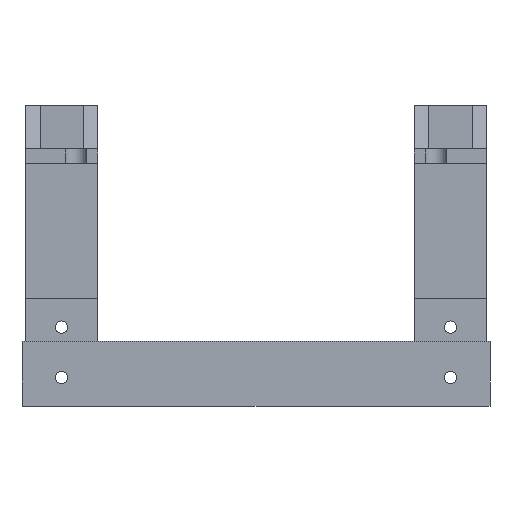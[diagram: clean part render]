
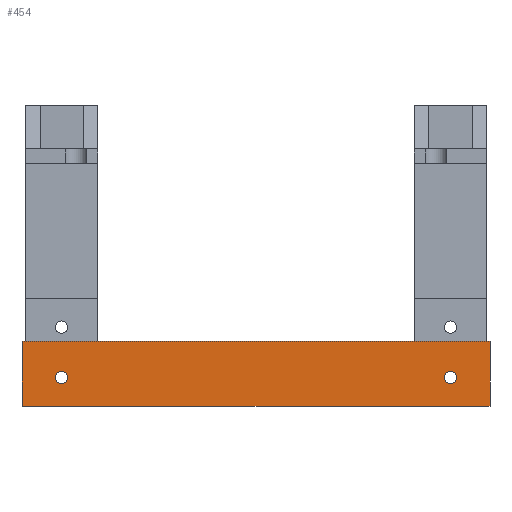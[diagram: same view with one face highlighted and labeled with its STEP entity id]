
A CAD part, front view. The second image highlights one B-rep face of the part: STEP entity #454.
In plain terms, the highlighted planar face has unit normal (0, -1, 0).
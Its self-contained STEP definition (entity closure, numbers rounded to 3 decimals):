
#418 = EDGE_CURVE('',#419,#421,#423,.T.);
#419 = VERTEX_POINT('',#420);
#420 = CARTESIAN_POINT('',(-65.,98.,2.));
#421 = VERTEX_POINT('',#422);
#422 = CARTESIAN_POINT('',(-65.,98.,20.));
#423 = LINE('',#424,#425);
#424 = CARTESIAN_POINT('',(-65.,98.,2.));
#425 = VECTOR('',#426,1.);
#426 = DIRECTION('',(0.,0.,1.));
#454 = ADVANCED_FACE('',(#455,#480,#491),#502,.F.);
#455 = FACE_BOUND('',#456,.F.);
#456 = EDGE_LOOP('',(#457,#465,#466,#474));
#457 = ORIENTED_EDGE('',*,*,#458,.F.);
#458 = EDGE_CURVE('',#419,#459,#461,.T.);
#459 = VERTEX_POINT('',#460);
#460 = CARTESIAN_POINT('',(65.,98.,2.));
#461 = LINE('',#462,#463);
#462 = CARTESIAN_POINT('',(-65.,98.,2.));
#463 = VECTOR('',#464,1.);
#464 = DIRECTION('',(1.,0.,-0.));
#465 = ORIENTED_EDGE('',*,*,#418,.T.);
#466 = ORIENTED_EDGE('',*,*,#467,.T.);
#467 = EDGE_CURVE('',#421,#468,#470,.T.);
#468 = VERTEX_POINT('',#469);
#469 = CARTESIAN_POINT('',(65.,98.,20.));
#470 = LINE('',#471,#472);
#471 = CARTESIAN_POINT('',(-65.,98.,20.));
#472 = VECTOR('',#473,1.);
#473 = DIRECTION('',(1.,0.,-0.));
#474 = ORIENTED_EDGE('',*,*,#475,.F.);
#475 = EDGE_CURVE('',#459,#468,#476,.T.);
#476 = LINE('',#477,#478);
#477 = CARTESIAN_POINT('',(65.,98.,2.));
#478 = VECTOR('',#479,1.);
#479 = DIRECTION('',(0.,0.,1.));
#480 = FACE_BOUND('',#481,.F.);
#481 = EDGE_LOOP('',(#482));
#482 = ORIENTED_EDGE('',*,*,#483,.F.);
#483 = EDGE_CURVE('',#484,#484,#486,.T.);
#484 = VERTEX_POINT('',#485);
#485 = CARTESIAN_POINT('',(-54.,98.,11.7));
#486 = CIRCLE('',#487,1.7);
#487 = AXIS2_PLACEMENT_3D('',#488,#489,#490);
#488 = CARTESIAN_POINT('',(-54.,98.,10.));
#489 = DIRECTION('',(0.,1.,0.));
#490 = DIRECTION('',(0.,-0.,1.));
#491 = FACE_BOUND('',#492,.F.);
#492 = EDGE_LOOP('',(#493));
#493 = ORIENTED_EDGE('',*,*,#494,.F.);
#494 = EDGE_CURVE('',#495,#495,#497,.T.);
#495 = VERTEX_POINT('',#496);
#496 = CARTESIAN_POINT('',(54.,98.,11.7));
#497 = CIRCLE('',#498,1.7);
#498 = AXIS2_PLACEMENT_3D('',#499,#500,#501);
#499 = CARTESIAN_POINT('',(54.,98.,10.));
#500 = DIRECTION('',(0.,1.,0.));
#501 = DIRECTION('',(0.,-0.,1.));
#502 = PLANE('',#503);
#503 = AXIS2_PLACEMENT_3D('',#504,#505,#506);
#504 = CARTESIAN_POINT('',(-65.,98.,2.));
#505 = DIRECTION('',(-0.,1.,0.));
#506 = DIRECTION('',(0.,0.,1.));
